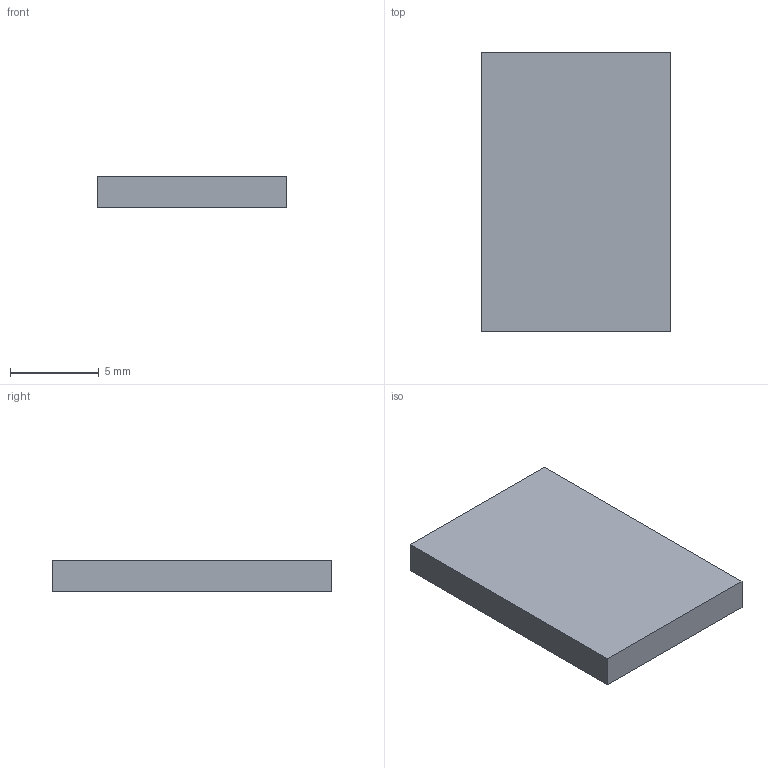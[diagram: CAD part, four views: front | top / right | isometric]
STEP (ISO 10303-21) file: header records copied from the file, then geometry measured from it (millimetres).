
FILE_DESCRIPTION(('Open CASCADE Model'),'2;1');
FILE_NAME('Open CASCADE Shape Model','2026-10-06T03:35:42',('Author'),( 'Open CASCADE'),'Open CASCADE STEP processor 7.8','Open CASCADE 7.8' ,'Unknown');
FILE_SCHEMA(('AUTOMOTIVE_DESIGN { 1 0 10303 214 1 1 1 1 }'));
Length unit declared in the file: millimetre
Products named in the file (1): Open CASCADE STEP translator 7.8 26
Bounding box: 10.7 x 15.8 x 1.8 mm (x, y, z)
Volume: 304.3 mm3; surface area: 433.5 mm2
Topology: 1 solids, 1 shells, 6 faces, 12 edges, 8 vertices
Faces by surface type: plane 6
Entity records: 322 total; most frequent: CARTESIAN_POINT 51, DIRECTION 50, LINE 36, VECTOR 36, ORIENTED_EDGE 24, PCURVE 24, DEFINITIONAL_REPRESENTATION 24, EDGE_CURVE 12
